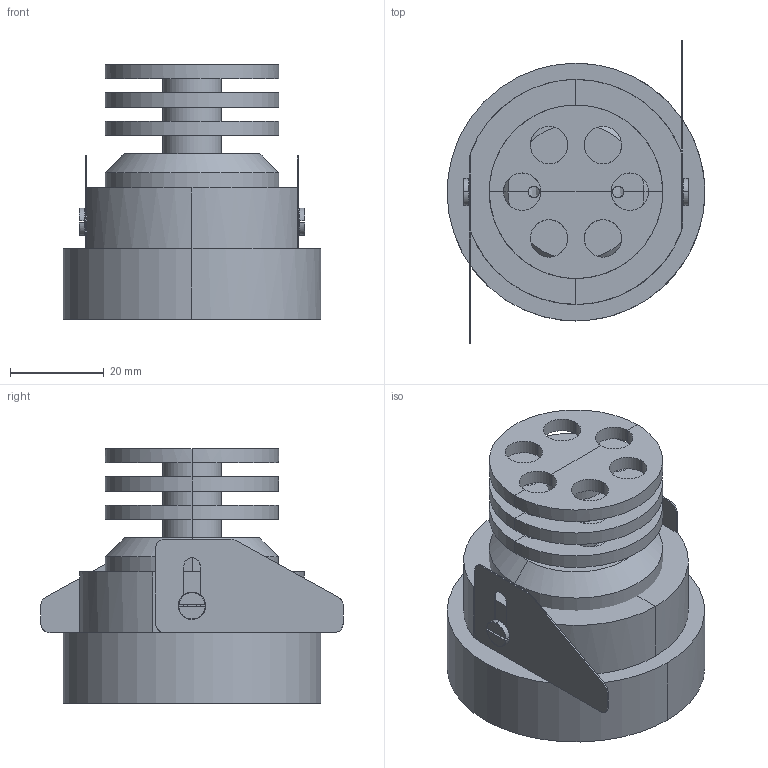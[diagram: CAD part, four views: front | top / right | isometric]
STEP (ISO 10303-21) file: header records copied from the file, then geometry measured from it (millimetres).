
FILE_DESCRIPTION(/* description */ (''),/* implementation_level */ '2;1');
FILE_NAME(/* name */ 'Nest 6',/* time_stamp */ '2025-06-18T18:14:57+02:00',/* author */ (''),/* organization */ (''),/* preprocessor_version */ 'ST-DEVELOPER v15',/* originating_system */ '',/* authorisation */ '');
FILE_SCHEMA (('CONFIG_CONTROL_DESIGN'));
Length unit declared in the file: millimetre
Products named in the file (1): Document
Bounding box: 54.99 x 64.5 x 54.26 mm (x, y, z)
Volume: 48991.2 mm3; surface area: 27589.5 mm2
Topology: 5 solids, 7 shells, 329 faces, 832 edges, 495 vertices
Faces by surface type: bspline 329
Entity records: 28222 total; most frequent: CARTESIAN_POINT 18017, B_SPLINE_CURVE_WITH_KNOTS 1884, ORIENTED_EDGE 1628, PCURVE 1628, DEFINITIONAL_REPRESENTATION 1628, SURFACE_CURVE 828, EDGE_CURVE 828, VERTEX_POINT 495
